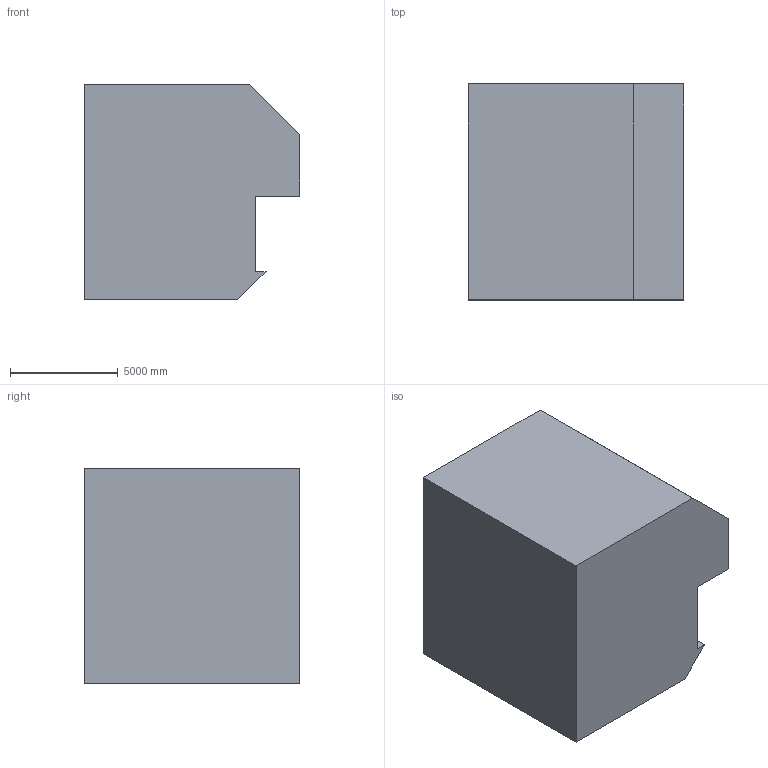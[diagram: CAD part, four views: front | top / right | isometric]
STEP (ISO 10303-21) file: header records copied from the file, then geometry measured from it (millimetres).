
FILE_DESCRIPTION (( 'STEP AP203' ), '1' );
FILE_NAME ('203.STEP', '2022-07-28T13:53:33', ( 'user' ), ( '' ), 'SwSTEP 2.0', 'SolidWorks 2021', '' );
FILE_SCHEMA (( 'CONFIG_CONTROL_DESIGN' ));
Length unit declared in the file: centimetre
Products named in the file (1): 203
Bounding box: 10000 x 10000 x 10000 mm (x, y, z)
Volume: 871398736094.7 mm3; surface area: 562464135.9 mm2
Topology: 1 solids, 1 shells, 11 faces, 27 edges, 18 vertices
Faces by surface type: plane 11
Entity records: 398 total; most frequent: CARTESIAN_POINT 57, ORIENTED_EDGE 54, DIRECTION 51, LINE 27, VECTOR 27, EDGE_CURVE 27, VERTEX_POINT 18, AXIS2_PLACEMENT_3D 12
